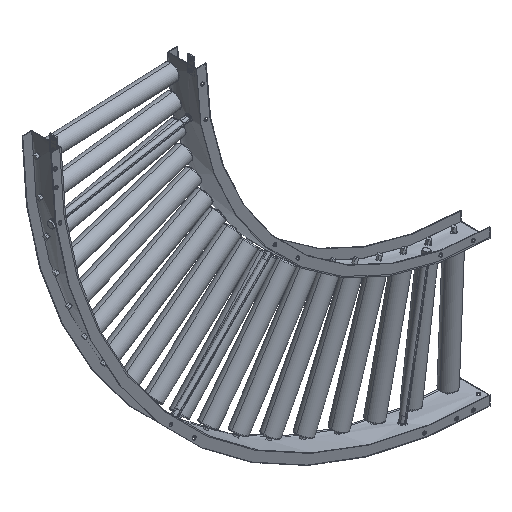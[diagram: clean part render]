
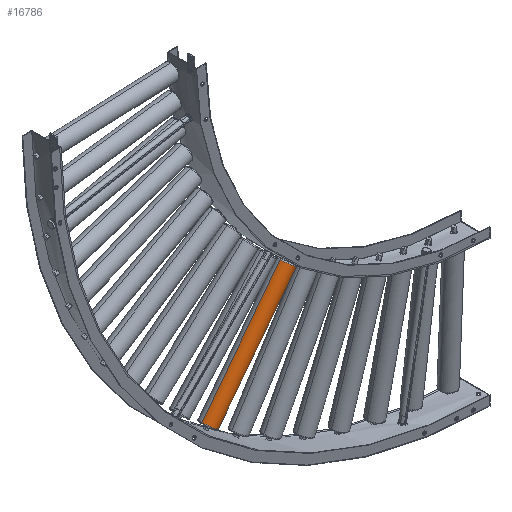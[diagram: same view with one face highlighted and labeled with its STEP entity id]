
A CAD part, isometric view. The second image highlights one B-rep face of the part: STEP entity #16786.
In plain terms, the highlighted cylindrical face has radius 24.3 mm (diameter 48.6 mm), a partial arc.
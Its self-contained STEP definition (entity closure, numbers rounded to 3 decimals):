
#413 = DIRECTION ( 'NONE',  ( 0.793, 0., -0.609 ) ) ;
#859 = DIRECTION ( 'NONE',  ( -0.793, 0., 0.609 ) ) ;
#879 = EDGE_CURVE ( 'NONE', #19860, #15270, #21280, .T. ) ;
#1477 = EDGE_CURVE ( 'NONE', #19860, #4476, #28180, .T. ) ;
#1710 = CARTESIAN_POINT ( 'NONE',  ( 272.185, 31.154, 5.755 ) ) ;
#1951 = VERTEX_POINT ( 'NONE', #17474 ) ;
#3756 = CIRCLE ( 'NONE', #24291, 24.3 ) ;
#4171 = CYLINDRICAL_SURFACE ( 'NONE', #9296, 24.3 ) ;
#4193 = CARTESIAN_POINT ( 'NONE',  ( 291.464, 31.154, -9.038 ) ) ;
#4476 = VERTEX_POINT ( 'NONE', #22463 ) ;
#4664 = ORIENTED_EDGE ( 'NONE', *, *, #1477, .T. ) ;
#5462 = CARTESIAN_POINT ( 'NONE',  ( 60.311, 31.154, -270.365 ) ) ;
#7218 = VECTOR ( 'NONE', #26015, 1000. ) ;
#8859 = ORIENTED_EDGE ( 'NONE', *, *, #879, .F. ) ;
#9296 = AXIS2_PLACEMENT_3D ( 'NONE', #1710, #27392, #20832 ) ;
#10693 = EDGE_LOOP ( 'NONE', ( #8859, #4664, #27649, #24020 ) ) ;
#11215 = LINE ( 'NONE', #4193, #14993 ) ;
#11223 = CARTESIAN_POINT ( 'NONE',  ( 41.033, 31.154, -255.572 ) ) ;
#14330 = CARTESIAN_POINT ( 'NONE',  ( -179.541, 31.154, -582.946 ) ) ;
#14993 = VECTOR ( 'NONE', #15483, 1000. ) ;
#15270 = VERTEX_POINT ( 'NONE', #11223 ) ;
#15483 = DIRECTION ( 'NONE',  ( 0.609, 0., 0.793 ) ) ;
#16786 = ADVANCED_FACE ( 'NONE', ( #22664 ), #4171, .T. ) ;
#17474 = CARTESIAN_POINT ( 'NONE',  ( 79.59, 31.154, -285.158 ) ) ;
#18389 = AXIS2_PLACEMENT_3D ( 'NONE', #14330, #23676, #413 ) ;
#19676 = CARTESIAN_POINT ( 'NONE',  ( -198.819, 31.154, -568.153 ) ) ;
#19860 = VERTEX_POINT ( 'NONE', #19676 ) ;
#20832 = DIRECTION ( 'NONE',  ( 0.793, 0., -0.609 ) ) ;
#21280 = LINE ( 'NONE', #28291, #7218 ) ;
#22463 = CARTESIAN_POINT ( 'NONE',  ( -160.262, 31.154, -597.739 ) ) ;
#22664 = FACE_OUTER_BOUND ( 'NONE', #10693, .T. ) ;
#23676 = DIRECTION ( 'NONE',  ( 0.609, 0., 0.793 ) ) ;
#24020 = ORIENTED_EDGE ( 'NONE', *, *, #24767, .T. ) ;
#24291 = AXIS2_PLACEMENT_3D ( 'NONE', #5462, #26688, #859 ) ;
#24767 = EDGE_CURVE ( 'NONE', #1951, #15270, #3756, .T. ) ;
#24907 = EDGE_CURVE ( 'NONE', #4476, #1951, #11215, .T. ) ;
#26015 = DIRECTION ( 'NONE',  ( 0.609, 0., 0.793 ) ) ;
#26688 = DIRECTION ( 'NONE',  ( -0.609, 0., -0.793 ) ) ;
#27392 = DIRECTION ( 'NONE',  ( 0.609, 0., 0.793 ) ) ;
#27649 = ORIENTED_EDGE ( 'NONE', *, *, #24907, .T. ) ;
#28180 = CIRCLE ( 'NONE', #18389, 24.3 ) ;
#28291 = CARTESIAN_POINT ( 'NONE',  ( 252.907, 31.154, 20.548 ) ) ;
